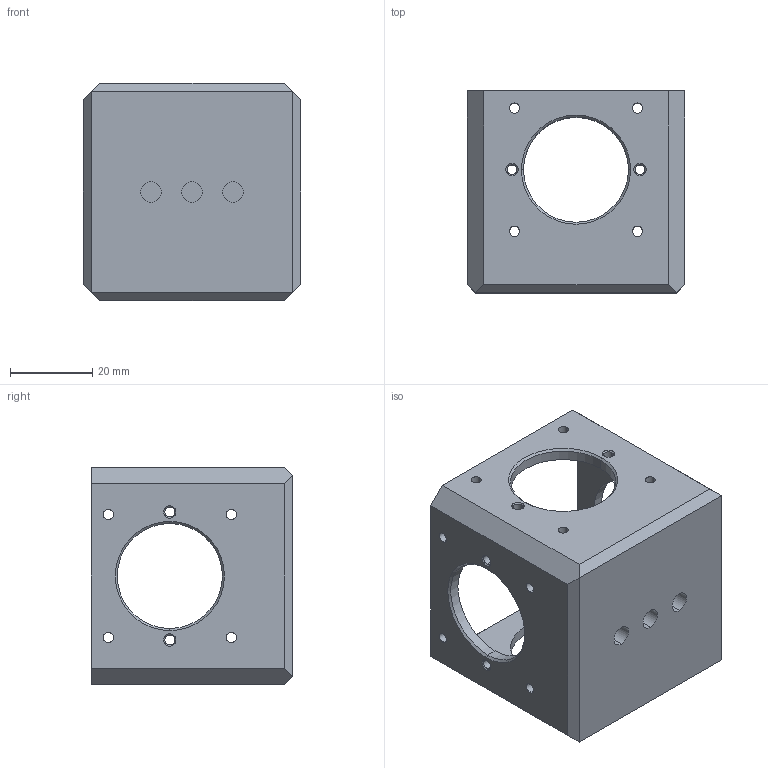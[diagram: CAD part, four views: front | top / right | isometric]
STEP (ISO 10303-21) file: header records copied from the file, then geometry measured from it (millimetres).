
FILE_DESCRIPTION (( 'STEP AP203' ), '1' );
FILE_NAME ('CSC1Q-B.STEP', '2024-03-28T03:20:08', ( '' ), ( '' ), 'SwSTEP 2.0', 'SolidWorks 2021', '' );
FILE_SCHEMA (( 'CONFIG_CONTROL_DESIGN' ));
Length unit declared in the file: millimetre
Products named in the file (1): CSC1Q-B
Bounding box: 53 x 49.2 x 53 mm (x, y, z)
Surface area: 21406.7 mm2 (no closed solid volume)
Topology: 0 solids, 4 shells, 161 faces, 431 edges, 277 vertices
Faces by surface type: cylinder 79, plane 41, cone 35, sphere 6
Entity records: 5155 total; most frequent: DIRECTION 949, CARTESIAN_POINT 846, ORIENTED_EDGE 816, EDGE_CURVE 416, AXIS2_PLACEMENT_3D 371, VERTEX_POINT 268, EDGE_LOOP 230, CIRCLE 209
